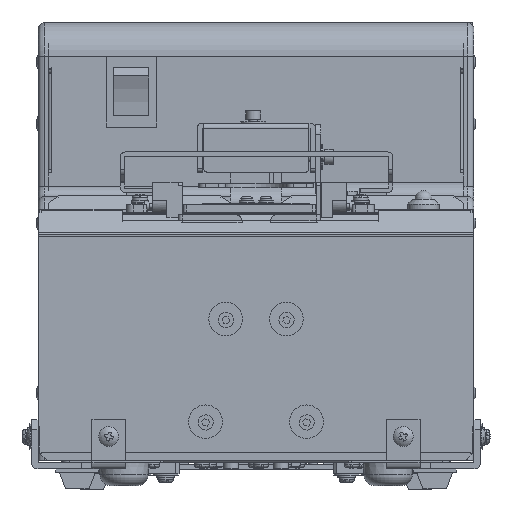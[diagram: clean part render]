
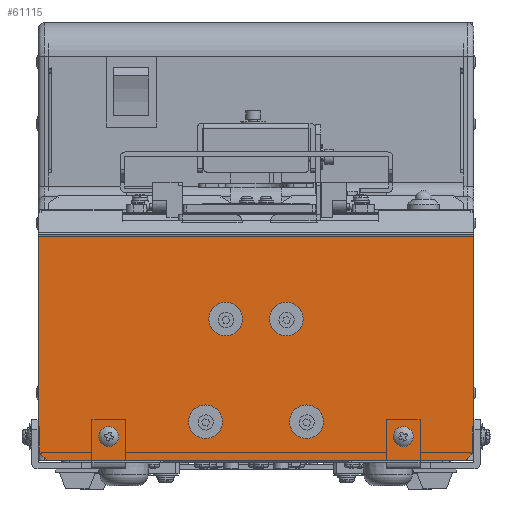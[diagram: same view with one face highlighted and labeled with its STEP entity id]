
A CAD part, front view. The second image highlights one B-rep face of the part: STEP entity #61115.
In plain terms, the highlighted planar face has unit normal (0, -1, 0).
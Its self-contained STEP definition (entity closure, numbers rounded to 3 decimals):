
#10006=CARTESIAN_POINT('',(22.844,-132.195,-175.105));
#10007=VERTEX_POINT('',#10006);
#10008=CARTESIAN_POINT('',(20.,-132.195,-174.321));
#10009=DIRECTION('',(0.,1.0,0.));
#10010=DIRECTION('',(0.964,0.,-0.266));
#10011=AXIS2_PLACEMENT_3D('',#10008,#10009,#10010);
#10012=CIRCLE('',#10011,2.95);
#10013=EDGE_CURVE('',#10007,#10007,#10012,.T.);
#57790=CARTESIAN_POINT('',(106.052,-132.195,-171.697));
#57791=VERTEX_POINT('',#57790);
#57792=CARTESIAN_POINT('',(107.4,-132.195,-174.321));
#57793=DIRECTION('',(0.,1.0,0.));
#57794=DIRECTION('',(-0.457,0.,0.889));
#57795=AXIS2_PLACEMENT_3D('',#57792,#57793,#57794);
#57796=CIRCLE('',#57795,2.95);
#57797=EDGE_CURVE('',#57791,#57791,#57796,.T.);
#58542=CARTESIAN_POINT('',(78.7,-132.195,-174.921));
#58543=VERTEX_POINT('',#58542);
#58544=CARTESIAN_POINT('',(78.7,-132.195,-169.921));
#58545=DIRECTION('',(0.0,1.0,0.0));
#58546=DIRECTION('',(0.0,0.0,1.0));
#58547=AXIS2_PLACEMENT_3D('',#58544,#58545,#58546);
#58548=CIRCLE('',#58547,5.0);
#58549=EDGE_CURVE('',#58543,#58543,#58548,.T.);
#58570=CARTESIAN_POINT('',(54.7,-132.195,-144.421));
#58571=VERTEX_POINT('',#58570);
#58572=CARTESIAN_POINT('',(54.7,-132.195,-139.421));
#58573=DIRECTION('',(0.0,1.0,0.0));
#58574=DIRECTION('',(0.0,0.0,1.0));
#58575=AXIS2_PLACEMENT_3D('',#58572,#58573,#58574);
#58576=CIRCLE('',#58575,5.0);
#58577=EDGE_CURVE('',#58571,#58571,#58576,.T.);
#58598=CARTESIAN_POINT('',(72.7,-132.195,-144.421));
#58599=VERTEX_POINT('',#58598);
#58600=CARTESIAN_POINT('',(72.7,-132.195,-139.421));
#58601=DIRECTION('',(0.0,1.0,0.0));
#58602=DIRECTION('',(0.0,0.0,1.0));
#58603=AXIS2_PLACEMENT_3D('',#58600,#58601,#58602);
#58604=CIRCLE('',#58603,5.0);
#58605=EDGE_CURVE('',#58599,#58599,#58604,.T.);
#58626=CARTESIAN_POINT('',(48.7,-132.195,-174.921));
#58627=VERTEX_POINT('',#58626);
#58628=CARTESIAN_POINT('',(48.7,-132.195,-169.921));
#58629=DIRECTION('',(0.0,1.0,0.0));
#58630=DIRECTION('',(0.0,0.0,1.0));
#58631=AXIS2_PLACEMENT_3D('',#58628,#58629,#58630);
#58632=CIRCLE('',#58631,5.);
#58633=EDGE_CURVE('',#58627,#58627,#58632,.T.);
#58770=CARTESIAN_POINT('',(-1.,-132.195,-170.921));
#58771=VERTEX_POINT('',#58770);
#58780=CARTESIAN_POINT('',(-1.,-132.195,-114.438));
#58781=VERTEX_POINT('',#58780);
#58782=CARTESIAN_POINT('',(-1.,-132.195,-114.438));
#58783=DIRECTION('',(0.0,0.0,-1.0));
#58784=VECTOR('',#58783,56.483);
#58785=LINE('',#58782,#58784);
#58786=EDGE_CURVE('',#58781,#58771,#58785,.T.);
#59275=CARTESIAN_POINT('',(128.4,-132.195,-170.921));
#59276=VERTEX_POINT('',#59275);
#59308=CARTESIAN_POINT('',(128.4,-132.195,-114.438));
#59309=VERTEX_POINT('',#59308);
#59317=CARTESIAN_POINT('',(128.4,-132.195,-170.921));
#59318=DIRECTION('',(0.0,0.0,1.0));
#59319=VECTOR('',#59318,56.483);
#59320=LINE('',#59317,#59319);
#59321=EDGE_CURVE('',#59276,#59309,#59320,.T.);
#59339=CARTESIAN_POINT('',(-1.,-132.195,-114.438));
#59340=DIRECTION('',(1.0,0.0,0.0));
#59341=VECTOR('',#59340,129.4);
#59342=LINE('',#59339,#59341);
#59343=EDGE_CURVE('',#58781,#59309,#59342,.T.);
#60875=CARTESIAN_POINT('',(127.9,-132.195,-179.421));
#60876=VERTEX_POINT('',#60875);
#60884=CARTESIAN_POINT('',(127.9,-132.195,-171.421));
#60885=VERTEX_POINT('',#60884);
#60892=CARTESIAN_POINT('',(127.9,-132.195,-179.421));
#60893=DIRECTION('',(0.0,0.0,1.0));
#60894=VECTOR('',#60893,8.);
#60895=LINE('',#60892,#60894);
#60896=EDGE_CURVE('',#60876,#60885,#60895,.T.);
#60906=CARTESIAN_POINT('',(-0.5,-132.195,-171.421));
#60907=VERTEX_POINT('',#60906);
#60908=CARTESIAN_POINT('',(-0.5,-132.195,-171.421));
#60909=DIRECTION('',(-0.707,0.0,0.707));
#60910=VECTOR('',#60909,0.707);
#60911=LINE('',#60908,#60910);
#60912=EDGE_CURVE('',#60907,#58771,#60911,.T.);
#60932=CARTESIAN_POINT('',(128.4,-132.195,-170.921));
#60933=DIRECTION('',(-0.707,0.0,-0.707));
#60934=VECTOR('',#60933,0.707);
#60935=LINE('',#60932,#60934);
#60936=EDGE_CURVE('',#59276,#60885,#60935,.T.);
#60947=CARTESIAN_POINT('',(125.9,-132.195,-181.421));
#60948=VERTEX_POINT('',#60947);
#60955=CARTESIAN_POINT('',(1.707,-132.195,-181.421));
#60956=VERTEX_POINT('',#60955);
#60957=CARTESIAN_POINT('',(1.707,-132.195,-181.421));
#60958=DIRECTION('',(1.0,0.0,0.0));
#60959=VECTOR('',#60958,124.193);
#60960=LINE('',#60957,#60959);
#60961=EDGE_CURVE('',#60956,#60948,#60960,.T.);
#60982=CARTESIAN_POINT('',(-0.5,-132.195,-179.213));
#60983=VERTEX_POINT('',#60982);
#60990=CARTESIAN_POINT('',(-0.5,-132.195,-171.421));
#60991=DIRECTION('',(0.0,0.0,-1.0));
#60992=VECTOR('',#60991,7.793);
#60993=LINE('',#60990,#60992);
#60994=EDGE_CURVE('',#60907,#60983,#60993,.T.);
#61006=CARTESIAN_POINT('',(-0.5,-132.195,-179.213));
#61007=DIRECTION('',(0.707,0.0,-0.707));
#61008=VECTOR('',#61007,3.121);
#61009=LINE('',#61006,#61008);
#61010=EDGE_CURVE('',#60983,#60956,#61009,.T.);
#61023=CARTESIAN_POINT('',(125.9,-132.195,-181.421));
#61024=DIRECTION('',(0.707,0.0,0.707));
#61025=VECTOR('',#61024,2.828);
#61026=LINE('',#61023,#61025);
#61027=EDGE_CURVE('',#60948,#60876,#61026,.T.);
#61080=CARTESIAN_POINT('',(-1.,-132.195,-181.421));
#61081=DIRECTION('',(0.0,-1.0,0.0));
#61082=DIRECTION('',(-1.0,0.0,0.0));
#61083=AXIS2_PLACEMENT_3D('',#61080,#61081,#61082);
#61084=PLANE('',#61083);
#61085=ORIENTED_EDGE('',*,*,#61027,.T.);
#61086=ORIENTED_EDGE('',*,*,#60896,.T.);
#61087=ORIENTED_EDGE('',*,*,#60936,.F.);
#61088=ORIENTED_EDGE('',*,*,#59321,.T.);
#61089=ORIENTED_EDGE('',*,*,#59343,.F.);
#61090=ORIENTED_EDGE('',*,*,#58786,.T.);
#61091=ORIENTED_EDGE('',*,*,#60912,.F.);
#61092=ORIENTED_EDGE('',*,*,#60994,.T.);
#61093=ORIENTED_EDGE('',*,*,#61010,.T.);
#61094=ORIENTED_EDGE('',*,*,#60961,.T.);
#61095=EDGE_LOOP('',(#61085,#61086,#61087,#61088,#61089,#61090,#61091,#61092,#61093,#61094));
#61096=FACE_OUTER_BOUND('',#61095,.T.);
#61097=ORIENTED_EDGE('',*,*,#57797,.T.);
#61098=EDGE_LOOP('',(#61097));
#61099=FACE_BOUND('',#61098,.T.);
#61100=ORIENTED_EDGE('',*,*,#10013,.T.);
#61101=EDGE_LOOP('',(#61100));
#61102=FACE_BOUND('',#61101,.T.);
#61103=ORIENTED_EDGE('',*,*,#58549,.T.);
#61104=EDGE_LOOP('',(#61103));
#61105=FACE_BOUND('',#61104,.T.);
#61106=ORIENTED_EDGE('',*,*,#58577,.T.);
#61107=EDGE_LOOP('',(#61106));
#61108=FACE_BOUND('',#61107,.T.);
#61109=ORIENTED_EDGE('',*,*,#58605,.T.);
#61110=EDGE_LOOP('',(#61109));
#61111=FACE_BOUND('',#61110,.T.);
#61112=ORIENTED_EDGE('',*,*,#58633,.T.);
#61113=EDGE_LOOP('',(#61112));
#61114=FACE_BOUND('',#61113,.T.);
#61115=ADVANCED_FACE('',(#61096,#61099,#61102,#61105,#61108,#61111,#61114),#61084,.T.);
